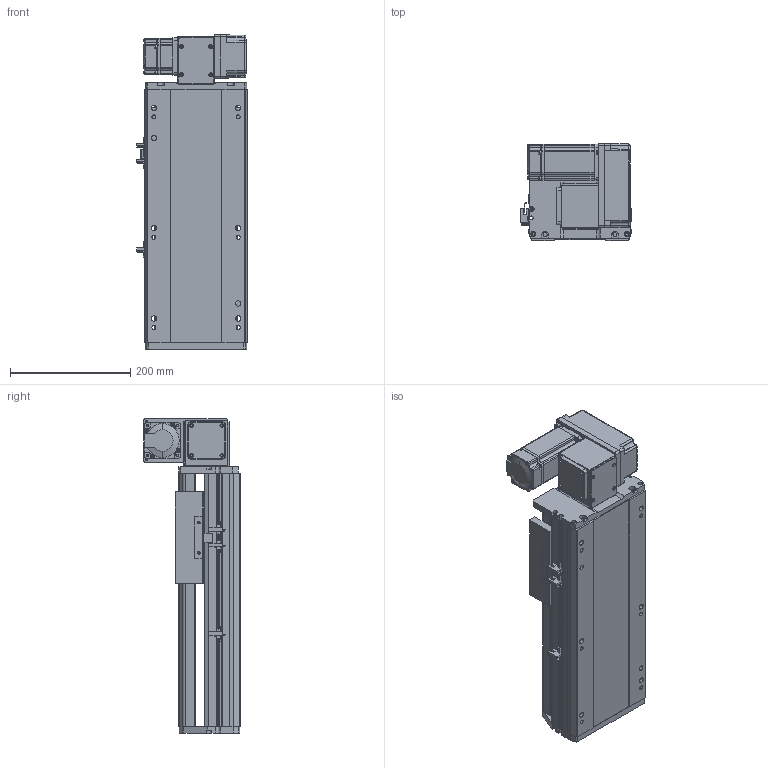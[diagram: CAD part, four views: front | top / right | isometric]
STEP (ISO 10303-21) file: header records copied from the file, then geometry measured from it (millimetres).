
FILE_DESCRIPTION (( 'STEP AP214' ), '1' );
FILE_NAME ('RTB17S-XX-150-RW-M40-C4.STEP', '2025-12-11T08:48:38', ( '' ), ( '' ), 'SwSTEP 2.0', 'SolidWorks 2018', '' );
FILE_SCHEMA (( 'AUTOMOTIVE_DESIGN' ));
Length unit declared in the file: millimetre
Products named in the file (14): RTB17S-L-004佪裝蹟譫蟀諉釱^RTB17S-XX-XX-RW-M40-C4; RTH13-BL-012覜茼え俋离^RTB17S-XX-XX-RW-M40-C4; 400W侜督萇儂^RTB17S-XX-XX-RW-M40-C4; RTB17S-XX-150-RW-M40-C4; RTB17S-RW-々湍釱蚾饜-400W^RTB17S-XX-XX-RW-M40-C4; RTB14-L-018P^RTB17S-RW-々湍釱蚾饜-400W_RTB17S-XX-XX-RW-M40-C4; RTB17S-L-001耜醱啣^RTB17S-XX-XX-RW-M40-C4; OMRON EE-SX672 传感器^RTB17S-XX-XX-RW-M40-C4; RMP17S-L-014-T20--々湍釱^RTB17S-RW-々湍釱蚾饜-400W_RTB17S-XX-XX-RW-M40-C4; RTB17S-L-007奻裔^RTB17S-XX-XX-RW-M40-C4; RTB17-R-011菁釱^RTB17S-XX-XX-RW-M40-C4; RTB14-L-008-M20--萇儂啣^RTB17S-RW-々湍釱蚾饜-400W_RTB17S-XX-XX-RW-M40-C4; RTB14-L-017P^RTB17S-RW-々湍釱蚾饜-400W_RTB17S-XX-XX-RW-M40-C4; RTB14-L-005P--轴承塑胶压盖^RTB17S-RW-皮带座装配-400W_RTB17S-XX-XX-RW-M40-C4
Assembly tree (16 placements, depth 3):
  RTB17S-XX-150-RW-M40-C4
    RTB17-R-011菁釱^RTB17S-XX-XX-RW-M40-C4
    RTB17S-L-007奻裔^RTB17S-XX-XX-RW-M40-C4
    OMRON EE-SX672 传感器^RTB17S-XX-XX-RW-M40-C4  x3
    RTB17S-L-001耜醱啣^RTB17S-XX-XX-RW-M40-C4
    400W侜督萇儂^RTB17S-XX-XX-RW-M40-C4
    RTB17S-L-004佪裝蹟譫蟀諉釱^RTB17S-XX-XX-RW-M40-C4
    RTH13-BL-012覜茼え俋离^RTB17S-XX-XX-RW-M40-C4
    RTB17S-RW-々湍釱蚾饜-400W^RTB17S-XX-XX-RW-M40-C4
      RMP17S-L-014-T20--々湍釱^RTB17S-RW-々湍釱蚾饜-400W_RTB17S-XX-XX-RW-M40-C4
      RTB14-L-005P--轴承塑胶压盖^RTB17S-RW-皮带座装配-400W_RTB17S-XX-XX-RW-M40-C4
      RTB14-L-008-M20--萇儂啣^RTB17S-RW-々湍釱蚾饜-400W_RTB17S-XX-XX-RW-M40-C4
      RTB14-L-017P^RTB17S-RW-々湍釱蚾饜-400W_RTB17S-XX-XX-RW-M40-C4  x2
      RTB14-L-018P^RTB17S-RW-々湍釱蚾饜-400W_RTB17S-XX-XX-RW-M40-C4
Bounding box: 183.5 x 160.5 x 522.5 mm (x, y, z)
Volume: 5442698 mm3; surface area: 742167.2 mm2
Topology: 15 solids, 15 shells, 2141 faces, 5871 edges, 3825 vertices
Faces by surface type: plane 1060, cylinder 633, bspline 301, cone 139, torus 8
Entity records: 59561 total; most frequent: CARTESIAN_POINT 16476, ORIENTED_EDGE 8586, DIRECTION 8036, EDGE_CURVE 4293, VERTEX_POINT 2813, AXIS2_PLACEMENT_3D 2743, VECTOR 2550, LINE 2550
